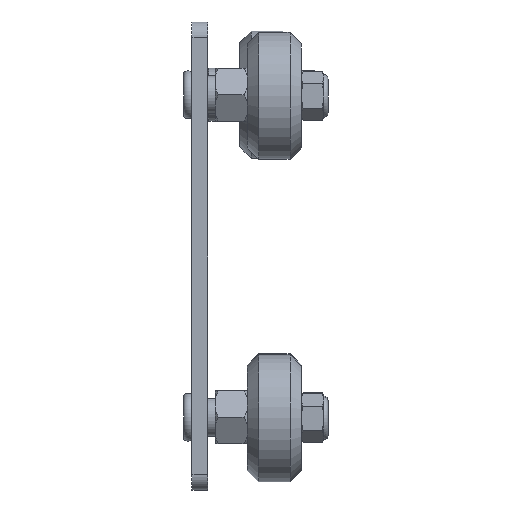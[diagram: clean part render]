
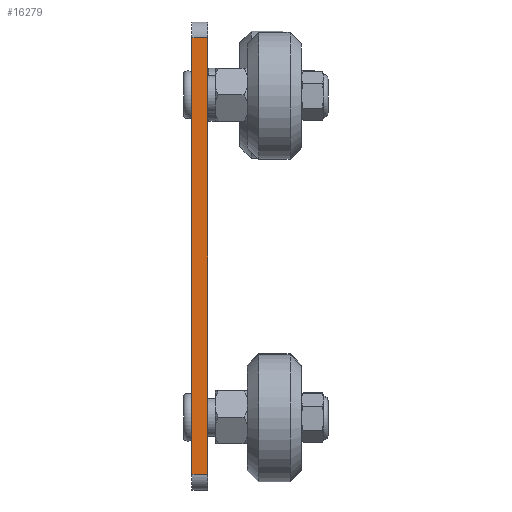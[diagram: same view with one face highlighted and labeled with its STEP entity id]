
A CAD part, left-side view. The second image highlights one B-rep face of the part: STEP entity #16279.
In plain terms, the highlighted planar face has unit normal (-1, 0, 0).
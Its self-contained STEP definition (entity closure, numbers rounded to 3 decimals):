
#8180 = VERTEX_POINT('',#8181);
#8181 = CARTESIAN_POINT('',(-63.5,3.,41.));
#8191 = PLANE('',#8192);
#8192 = AXIS2_PLACEMENT_3D('',#8193,#8194,#8195);
#8193 = CARTESIAN_POINT('',(-60.5,3.,41.));
#8194 = DIRECTION('',(0.,-1.,0.));
#8195 = DIRECTION('',(0.,0.,-1.));
#8207 = CYLINDRICAL_SURFACE('',#8208,3.);
#8208 = AXIS2_PLACEMENT_3D('',#8209,#8210,#8211);
#8209 = CARTESIAN_POINT('',(-60.5,3.,41.));
#8210 = DIRECTION('',(0.,-1.,0.));
#8211 = DIRECTION('',(0.,0.,-1.));
#8370 = VERTEX_POINT('',#8371);
#8371 = CARTESIAN_POINT('',(-63.5,3.,-41.));
#8390 = CYLINDRICAL_SURFACE('',#8391,3.);
#8391 = AXIS2_PLACEMENT_3D('',#8392,#8393,#8394);
#8392 = CARTESIAN_POINT('',(-60.5,3.,-41.));
#8393 = DIRECTION('',(0.,-1.,0.));
#8394 = DIRECTION('',(0.,0.,-1.));
#8402 = EDGE_CURVE('',#8370,#8180,#8403,.T.);
#8403 = SURFACE_CURVE('',#8404,(#8408,#8415),.PCURVE_S1.);
#8404 = LINE('',#8405,#8406);
#8405 = CARTESIAN_POINT('',(-63.5,3.,-41.));
#8406 = VECTOR('',#8407,1.);
#8407 = DIRECTION('',(0.,0.,1.));
#8408 = PCURVE('',#8191,#8409);
#8409 = DEFINITIONAL_REPRESENTATION('',(#8410),#8414);
#8410 = LINE('',#8411,#8412);
#8411 = CARTESIAN_POINT('',(82.,-3.));
#8412 = VECTOR('',#8413,1.);
#8413 = DIRECTION('',(-1.,0.));
#8414 = ( GEOMETRIC_REPRESENTATION_CONTEXT(2) 
PARAMETRIC_REPRESENTATION_CONTEXT() REPRESENTATION_CONTEXT('2D SPACE',''
  ) );
#8415 = PCURVE('',#8416,#8421);
#8416 = PLANE('',#8417);
#8417 = AXIS2_PLACEMENT_3D('',#8418,#8419,#8420);
#8418 = CARTESIAN_POINT('',(-63.5,3.,41.));
#8419 = DIRECTION('',(1.,0.,0.));
#8420 = DIRECTION('',(0.,0.,-1.));
#8421 = DEFINITIONAL_REPRESENTATION('',(#8422),#8426);
#8422 = LINE('',#8423,#8424);
#8423 = CARTESIAN_POINT('',(82.,0.));
#8424 = VECTOR('',#8425,1.);
#8425 = DIRECTION('',(-1.,0.));
#8426 = ( GEOMETRIC_REPRESENTATION_CONTEXT(2) 
PARAMETRIC_REPRESENTATION_CONTEXT() REPRESENTATION_CONTEXT('2D SPACE',''
  ) );
#12385 = VERTEX_POINT('',#12386);
#12386 = CARTESIAN_POINT('',(-63.5,0.,41.));
#12396 = PLANE('',#12397);
#12397 = AXIS2_PLACEMENT_3D('',#12398,#12399,#12400);
#12398 = CARTESIAN_POINT('',(-60.5,0.,41.));
#12399 = DIRECTION('',(0.,-1.,0.));
#12400 = DIRECTION('',(0.,0.,-1.));
#12419 = EDGE_CURVE('',#12420,#12385,#12422,.T.);
#12420 = VERTEX_POINT('',#12421);
#12421 = CARTESIAN_POINT('',(-63.5,0.,-41.));
#12422 = SURFACE_CURVE('',#12423,(#12427,#12434),.PCURVE_S1.);
#12423 = LINE('',#12424,#12425);
#12424 = CARTESIAN_POINT('',(-63.5,0.,-41.));
#12425 = VECTOR('',#12426,1.);
#12426 = DIRECTION('',(0.,0.,1.));
#12427 = PCURVE('',#12396,#12428);
#12428 = DEFINITIONAL_REPRESENTATION('',(#12429),#12433);
#12429 = LINE('',#12430,#12431);
#12430 = CARTESIAN_POINT('',(82.,-3.));
#12431 = VECTOR('',#12432,1.);
#12432 = DIRECTION('',(-1.,0.));
#12433 = ( GEOMETRIC_REPRESENTATION_CONTEXT(2) 
PARAMETRIC_REPRESENTATION_CONTEXT() REPRESENTATION_CONTEXT('2D SPACE',''
  ) );
#12434 = PCURVE('',#8416,#12435);
#12435 = DEFINITIONAL_REPRESENTATION('',(#12436),#12440);
#12436 = LINE('',#12437,#12438);
#12437 = CARTESIAN_POINT('',(82.,-3.));
#12438 = VECTOR('',#12439,1.);
#12439 = DIRECTION('',(-1.,0.));
#12440 = ( GEOMETRIC_REPRESENTATION_CONTEXT(2) 
PARAMETRIC_REPRESENTATION_CONTEXT() REPRESENTATION_CONTEXT('2D SPACE',''
  ) );
#16097 = EDGE_CURVE('',#8180,#12385,#16098,.T.);
#16098 = SURFACE_CURVE('',#16099,(#16103,#16110),.PCURVE_S1.);
#16099 = LINE('',#16100,#16101);
#16100 = CARTESIAN_POINT('',(-63.5,3.,41.));
#16101 = VECTOR('',#16102,1.);
#16102 = DIRECTION('',(0.,-1.,0.));
#16103 = PCURVE('',#8207,#16104);
#16104 = DEFINITIONAL_REPRESENTATION('',(#16105),#16109);
#16105 = LINE('',#16106,#16107);
#16106 = CARTESIAN_POINT('',(4.712,0.));
#16107 = VECTOR('',#16108,1.);
#16108 = DIRECTION('',(0.,1.));
#16109 = ( GEOMETRIC_REPRESENTATION_CONTEXT(2) 
PARAMETRIC_REPRESENTATION_CONTEXT() REPRESENTATION_CONTEXT('2D SPACE',''
  ) );
#16110 = PCURVE('',#8416,#16111);
#16111 = DEFINITIONAL_REPRESENTATION('',(#16112),#16116);
#16112 = LINE('',#16113,#16114);
#16113 = CARTESIAN_POINT('',(0.,0.));
#16114 = VECTOR('',#16115,1.);
#16115 = DIRECTION('',(-0.,-1.));
#16116 = ( GEOMETRIC_REPRESENTATION_CONTEXT(2) 
PARAMETRIC_REPRESENTATION_CONTEXT() REPRESENTATION_CONTEXT('2D SPACE',''
  ) );
#16257 = EDGE_CURVE('',#8370,#12420,#16258,.T.);
#16258 = SURFACE_CURVE('',#16259,(#16263,#16270),.PCURVE_S1.);
#16259 = LINE('',#16260,#16261);
#16260 = CARTESIAN_POINT('',(-63.5,3.,-41.));
#16261 = VECTOR('',#16262,1.);
#16262 = DIRECTION('',(0.,-1.,0.));
#16263 = PCURVE('',#8390,#16264);
#16264 = DEFINITIONAL_REPRESENTATION('',(#16265),#16269);
#16265 = LINE('',#16266,#16267);
#16266 = CARTESIAN_POINT('',(4.712,0.));
#16267 = VECTOR('',#16268,1.);
#16268 = DIRECTION('',(0.,1.));
#16269 = ( GEOMETRIC_REPRESENTATION_CONTEXT(2) 
PARAMETRIC_REPRESENTATION_CONTEXT() REPRESENTATION_CONTEXT('2D SPACE',''
  ) );
#16270 = PCURVE('',#8416,#16271);
#16271 = DEFINITIONAL_REPRESENTATION('',(#16272),#16276);
#16272 = LINE('',#16273,#16274);
#16273 = CARTESIAN_POINT('',(82.,0.));
#16274 = VECTOR('',#16275,1.);
#16275 = DIRECTION('',(-0.,-1.));
#16276 = ( GEOMETRIC_REPRESENTATION_CONTEXT(2) 
PARAMETRIC_REPRESENTATION_CONTEXT() REPRESENTATION_CONTEXT('2D SPACE',''
  ) );
#16279 = ADVANCED_FACE('',(#16280),#8416,.F.);
#16280 = FACE_BOUND('',#16281,.T.);
#16281 = EDGE_LOOP('',(#16282,#16283,#16284,#16285));
#16282 = ORIENTED_EDGE('',*,*,#12419,.T.);
#16283 = ORIENTED_EDGE('',*,*,#16097,.F.);
#16284 = ORIENTED_EDGE('',*,*,#8402,.F.);
#16285 = ORIENTED_EDGE('',*,*,#16257,.T.);
